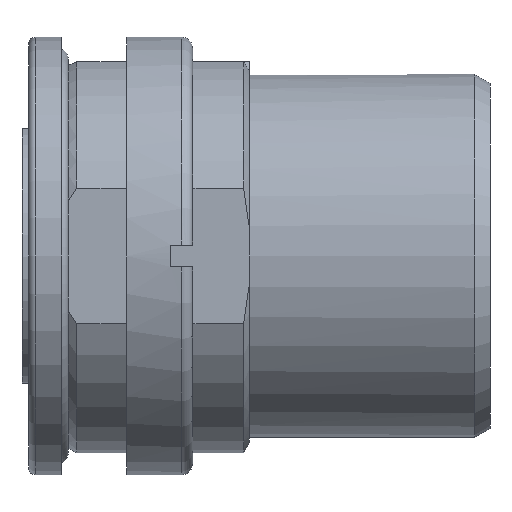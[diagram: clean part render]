
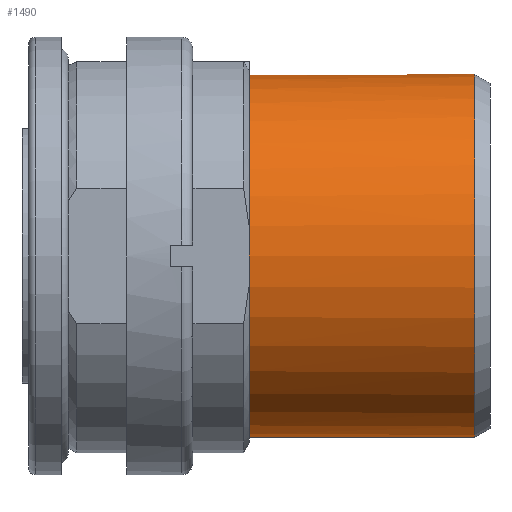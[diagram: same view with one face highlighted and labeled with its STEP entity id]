
A CAD part, front view. The second image highlights one B-rep face of the part: STEP entity #1490.
In plain terms, the highlighted cylindrical face has radius 8.3 mm (diameter 16.6 mm), a full revolution.
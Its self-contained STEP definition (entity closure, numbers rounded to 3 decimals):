
#36=CYLINDRICAL_SURFACE('',#1663,8.3);
#114=FACE_BOUND('',#300,.T.);
#191=FACE_OUTER_BOUND('',#299,.T.);
#299=EDGE_LOOP('',(#1269));
#300=EDGE_LOOP('',(#1270,#1271));
#587=CIRCLE('',#1657,8.3);
#591=CIRCLE('',#1664,8.3);
#592=CIRCLE('',#1665,8.3);
#700=VERTEX_POINT('',#2483);
#701=VERTEX_POINT('',#2485);
#722=VERTEX_POINT('',#2574);
#907=EDGE_CURVE('',#701,#700,#587,.T.);
#911=EDGE_CURVE('',#722,#722,#591,.T.);
#912=EDGE_CURVE('',#700,#701,#592,.T.);
#1269=ORIENTED_EDGE('',*,*,#911,.T.);
#1270=ORIENTED_EDGE('',*,*,#907,.F.);
#1271=ORIENTED_EDGE('',*,*,#912,.F.);
#1490=ADVANCED_FACE('',(#191,#114),#36,.T.);
#1657=AXIS2_PLACEMENT_3D('',#2564,#2031,#2032);
#1663=AXIS2_PLACEMENT_3D('',#2573,#2043,#2044);
#1664=AXIS2_PLACEMENT_3D('',#2575,#2045,#2046);
#1665=AXIS2_PLACEMENT_3D('',#2576,#2047,#2048);
#2031=DIRECTION('center_axis',(-1.,0.,0.));
#2032=DIRECTION('ref_axis',(0.,-1.,0.));
#2043=DIRECTION('center_axis',(-1.,0.,0.));
#2044=DIRECTION('ref_axis',(0.,-1.,0.));
#2045=DIRECTION('center_axis',(-1.,0.,0.));
#2046=DIRECTION('ref_axis',(0.,-1.,0.));
#2047=DIRECTION('center_axis',(-1.,0.,0.));
#2048=DIRECTION('ref_axis',(0.,-1.,0.));
#2483=CARTESIAN_POINT('',(0.508,0.116,8.281));
#2485=CARTESIAN_POINT('',(0.508,1.242,8.281));
#2564=CARTESIAN_POINT('Origin',(0.508,0.679,0.));
#2573=CARTESIAN_POINT('Origin',(5.658,0.679,0.));
#2574=CARTESIAN_POINT('',(10.808,-7.621,0.));
#2575=CARTESIAN_POINT('Origin',(10.808,0.679,0.));
#2576=CARTESIAN_POINT('Origin',(0.508,0.679,0.));
